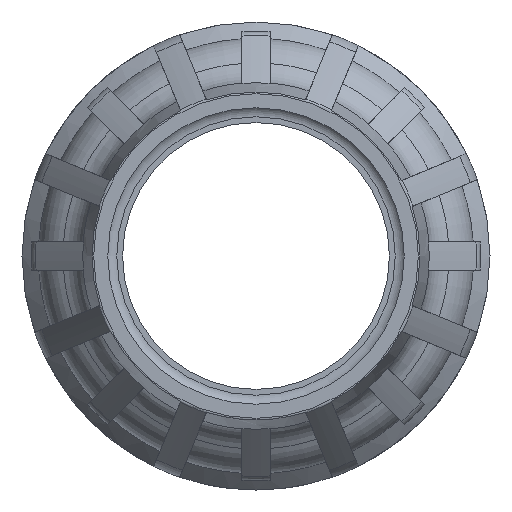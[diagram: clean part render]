
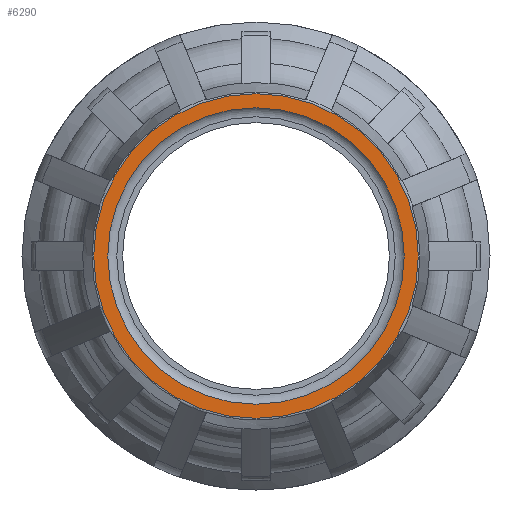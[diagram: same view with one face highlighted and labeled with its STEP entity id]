
A CAD part, left-side view. The second image highlights one B-rep face of the part: STEP entity #6290.
In plain terms, the highlighted planar face has unit normal (-1, 0, 0).
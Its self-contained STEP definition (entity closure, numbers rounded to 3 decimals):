
#90=PLANE('',#6960);
#2792=ORIENTED_EDGE('',*,*,#3977,.F.);
#2793=ORIENTED_EDGE('',*,*,#3994,.F.);
#3977=EDGE_CURVE('',#4711,#4711,#5048,.T.);
#3994=EDGE_CURVE('',#4712,#4712,#5065,.F.);
#4711=VERTEX_POINT('',#12195);
#4712=VERTEX_POINT('',#12230);
#5048=CIRCLE('',#6927,61.052);
#5065=CIRCLE('',#6961,55.75);
#5419=EDGE_LOOP('',(#2792));
#5420=EDGE_LOOP('',(#2793));
#5827=FACE_BOUND('',#5419,.T.);
#5828=FACE_BOUND('',#5420,.T.);
#6290=ADVANCED_FACE('',(#5827,#5828),#90,.F.);
#6927=AXIS2_PLACEMENT_3D('',#12194,#8311,#8312);
#6960=AXIS2_PLACEMENT_3D('',#12228,#8377,#8378);
#6961=AXIS2_PLACEMENT_3D('',#12229,#8379,#8380);
#8311=DIRECTION('',(1.,0.,0.));
#8312=DIRECTION('',(0.,0.,-1.));
#8377=DIRECTION('',(1.,0.,0.));
#8378=DIRECTION('',(0.,0.,-1.));
#8379=DIRECTION('',(1.,0.,0.));
#8380=DIRECTION('',(0.,0.,-1.));
#12194=CARTESIAN_POINT('',(0.,0.,0.));
#12195=CARTESIAN_POINT('',(0.,0.,-61.052));
#12228=CARTESIAN_POINT('',(0.,0.,0.));
#12229=CARTESIAN_POINT('',(0.,0.,0.));
#12230=CARTESIAN_POINT('',(0.,0.,-55.75));
